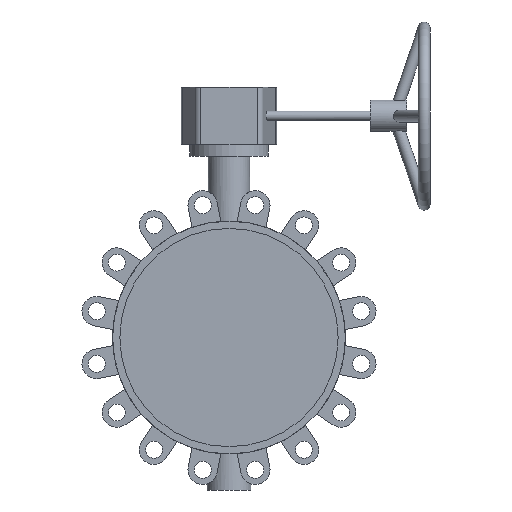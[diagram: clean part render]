
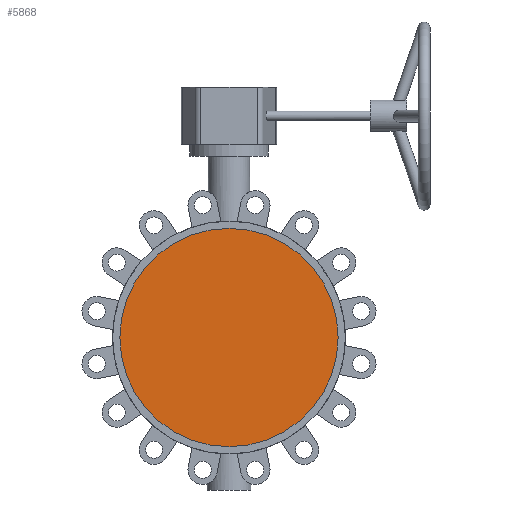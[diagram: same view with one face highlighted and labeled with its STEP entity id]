
A CAD part, front view. The second image highlights one B-rep face of the part: STEP entity #5868.
In plain terms, the highlighted planar face has unit normal (0, -1, 0).
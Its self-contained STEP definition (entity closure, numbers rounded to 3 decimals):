
#472 = AXIS2_PLACEMENT_3D ( 'NONE', #8661, #4469, #1697 ) ;
#976 = VERTEX_POINT ( 'NONE', #4667 ) ;
#1641 = PLANE ( 'NONE',  #472 ) ;
#1697 = DIRECTION ( 'NONE',  ( 0., 0., 1. ) ) ;
#1781 = EDGE_LOOP ( 'NONE', ( #6989 ) ) ;
#4469 = DIRECTION ( 'NONE',  ( 0., 1., 0. ) ) ;
#4511 = CARTESIAN_POINT ( 'NONE',  ( 0., -41., 0. ) ) ;
#4667 = CARTESIAN_POINT ( 'NONE',  ( 0., -41., 174. ) ) ;
#4782 = AXIS2_PLACEMENT_3D ( 'NONE', #4511, #8677, #5099 ) ;
#5099 = DIRECTION ( 'NONE',  ( 0., 0., 1. ) ) ;
#5664 = FACE_OUTER_BOUND ( 'NONE', #1781, .T. ) ;
#5868 = ADVANCED_FACE ( 'NONE', ( #5664 ), #1641, .F. ) ;
#6989 = ORIENTED_EDGE ( 'NONE', *, *, #8368, .F. ) ;
#8139 = CIRCLE ( 'NONE', #4782, 174. ) ;
#8368 = EDGE_CURVE ( 'NONE', #976, #976, #8139, .T. ) ;
#8661 = CARTESIAN_POINT ( 'NONE',  ( 0., -41., 0. ) ) ;
#8677 = DIRECTION ( 'NONE',  ( 0., 1., 0. ) ) ;
